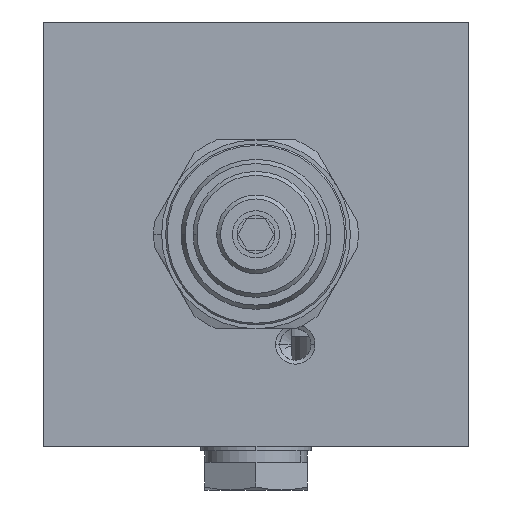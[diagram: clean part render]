
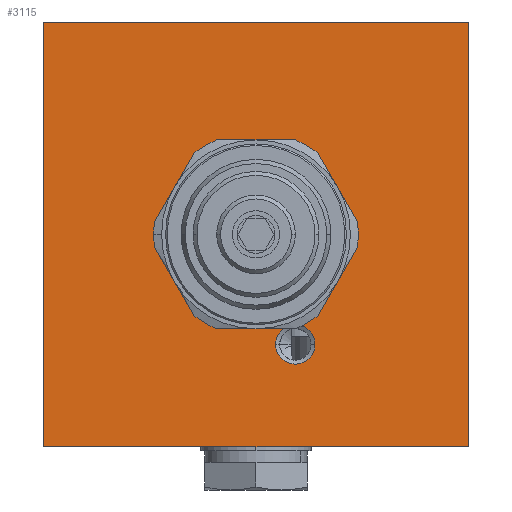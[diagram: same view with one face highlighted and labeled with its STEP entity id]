
A CAD part, left-side view. The second image highlights one B-rep face of the part: STEP entity #3115.
In plain terms, the highlighted planar face has unit normal (-1, 0, 0).
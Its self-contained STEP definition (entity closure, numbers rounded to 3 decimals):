
#1=DIRECTION('',(0.,-1.,0.));
#2=VECTOR('',#1,54.);
#3=CARTESIAN_POINT('',(0.,0.,0.));
#4=LINE('',#3,#2);
#57=DIRECTION('',(0.,0.,1.));
#58=VECTOR('',#57,54.);
#59=CARTESIAN_POINT('',(0.,0.,0.));
#60=LINE('',#59,#58);
#61=CARTESIAN_POINT('',(0.,-32.,13.));
#62=DIRECTION('',(-1.,0.,0.));
#63=DIRECTION('',(0.,1.,0.));
#64=AXIS2_PLACEMENT_3D('',#61,#62,#63);
#66=CARTESIAN_POINT('',(0.,-32.,13.));
#67=DIRECTION('',(-1.,0.,0.));
#68=DIRECTION('',(0.,-1.,0.));
#69=AXIS2_PLACEMENT_3D('',#66,#67,#68);
#109=DIRECTION('',(0.,0.,1.));
#110=VECTOR('',#109,54.);
#111=CARTESIAN_POINT('',(0.,-54.,0.));
#112=LINE('',#111,#110);
#133=DIRECTION('',(0.,-1.,0.));
#134=VECTOR('',#133,54.);
#135=CARTESIAN_POINT('',(0.,0.,54.));
#136=LINE('',#135,#134);
#1537=CARTESIAN_POINT('',(0.,-27.,27.));
#1538=DIRECTION('',(1.,0.,0.));
#1539=DIRECTION('',(0.,1.,0.));
#1540=AXIS2_PLACEMENT_3D('',#1537,#1538,#1539);
#1547=CARTESIAN_POINT('',(0.,-27.,27.));
#1548=DIRECTION('',(1.,0.,0.));
#1549=DIRECTION('',(0.,-1.,0.));
#1550=AXIS2_PLACEMENT_3D('',#1547,#1548,#1549);
#2460=CARTESIAN_POINT('',(0.,0.,0.));
#2461=CARTESIAN_POINT('',(0.,-54.,0.));
#2462=VERTEX_POINT('',#2460);
#2463=VERTEX_POINT('',#2461);
#2468=CARTESIAN_POINT('',(0.,0.,54.));
#2469=CARTESIAN_POINT('',(0.,-54.,54.));
#2470=VERTEX_POINT('',#2468);
#2471=VERTEX_POINT('',#2469);
#2564=CARTESIAN_POINT('',(0.,-16.2,27.));
#2565=CARTESIAN_POINT('',(0.,-37.8,27.));
#2566=VERTEX_POINT('',#2564);
#2567=VERTEX_POINT('',#2565);
#2864=CARTESIAN_POINT('',(0.,-29.5,13.));
#2865=CARTESIAN_POINT('',(0.,-34.5,13.));
#2866=VERTEX_POINT('',#2864);
#2867=VERTEX_POINT('',#2865);
#3089=CARTESIAN_POINT('',(0.,0.,0.));
#3090=DIRECTION('',(-1.,0.,0.));
#3091=DIRECTION('',(0.,-1.,0.));
#3092=AXIS2_PLACEMENT_3D('',#3089,#3090,#3091);
#3093=PLANE('',#3092);
#3094=ORIENTED_EDGE('',*,*,#3042,.F.);
#3096=ORIENTED_EDGE('',*,*,#3095,.T.);
#3098=ORIENTED_EDGE('',*,*,#3097,.T.);
#3100=ORIENTED_EDGE('',*,*,#3099,.F.);
#3101=EDGE_LOOP('',(#3094,#3096,#3098,#3100));
#3102=FACE_OUTER_BOUND('',#3101,.F.);
#3104=ORIENTED_EDGE('',*,*,#3103,.F.);
#3106=ORIENTED_EDGE('',*,*,#3105,.F.);
#3107=EDGE_LOOP('',(#3104,#3106));
#3108=FACE_BOUND('',#3107,.F.);
#3110=ORIENTED_EDGE('',*,*,#3109,.T.);
#3112=ORIENTED_EDGE('',*,*,#3111,.T.);
#3113=EDGE_LOOP('',(#3110,#3112));
#3114=FACE_BOUND('',#3113,.F.);
#3115=ADVANCED_FACE('',(#3102,#3108,#3114),#3093,.T.);
#65=CIRCLE('',#64,2.5);
#70=CIRCLE('',#69,2.5);
#1541=CIRCLE('',#1540,10.8);
#1551=CIRCLE('',#1550,10.8);
#3042=EDGE_CURVE('',#2462,#2463,#4,.T.);
#3095=EDGE_CURVE('',#2462,#2470,#60,.T.);
#3097=EDGE_CURVE('',#2470,#2471,#136,.T.);
#3099=EDGE_CURVE('',#2463,#2471,#112,.T.);
#3103=EDGE_CURVE('',#2567,#2566,#1551,.T.);
#3105=EDGE_CURVE('',#2566,#2567,#1541,.T.);
#3109=EDGE_CURVE('',#2866,#2867,#65,.T.);
#3111=EDGE_CURVE('',#2867,#2866,#70,.T.);
